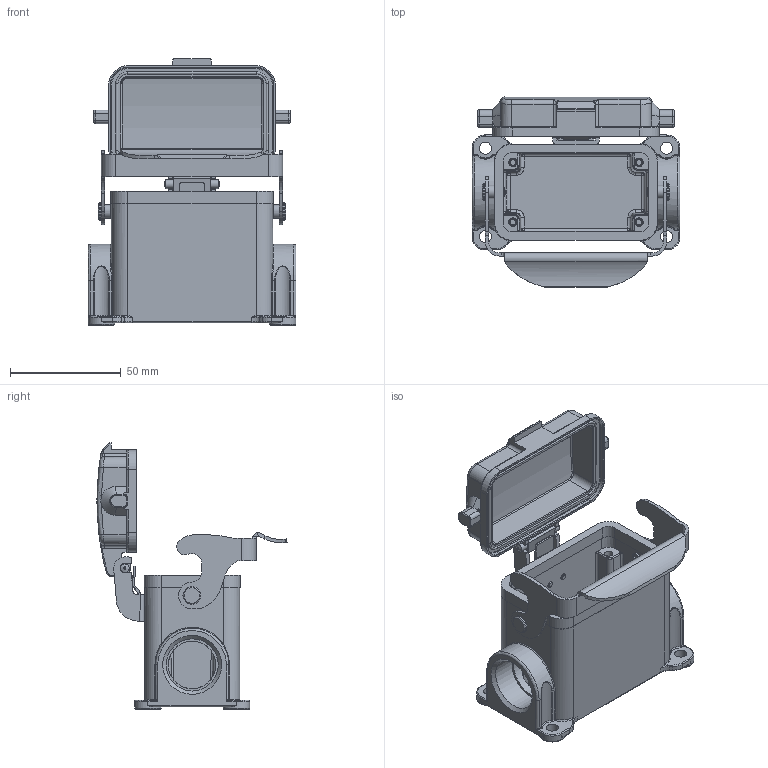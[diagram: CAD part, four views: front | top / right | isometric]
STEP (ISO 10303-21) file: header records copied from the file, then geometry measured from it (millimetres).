
FILE_DESCRIPTION (( 'STEP AP203' ), '1' );
FILE_NAME ('H10B-SDR-LB-M25.STEP', '2023-06-06T04:43:45', ( '' ), ( '' ), 'SwSTEP 2.0', 'SolidWorks 2016', '' );
FILE_SCHEMA (( 'CONFIG_CONTROL_DESIGN' ));
Products named in the file (1): H10B-SDR-LB-M25
Bounding box: 94 x 85.93 x 120.4 mm (x, y, z)
Volume: 95831.8 mm3; surface area: 61071.3 mm2
Topology: 1 solids, 3 shells, 985 faces, 2447 edges, 1502 vertices
Faces by surface type: cylinder 392, plane 265, torus 149, bspline 112, cone 52, sphere 15
Full cylindrical faces by diameter (mm): 2.5 x2, 3.2 x2, 3.3 x2, 4 x3, 5.5 x6, 6 x2, 6.1 x2, 8 x2, 12 x4, 16.5 x1, 18.6 x1, 21.5 x1, 23.6 x1
Entity records: 138458 total; most frequent: CARTESIAN_POINT 116565, ORIENTED_EDGE 4722, DIRECTION 4281, EDGE_CURVE 2361, AXIS2_PLACEMENT_3D 1672, VERTEX_POINT 1472, EDGE_LOOP 1097, FACE_OUTER_BOUND 1020
